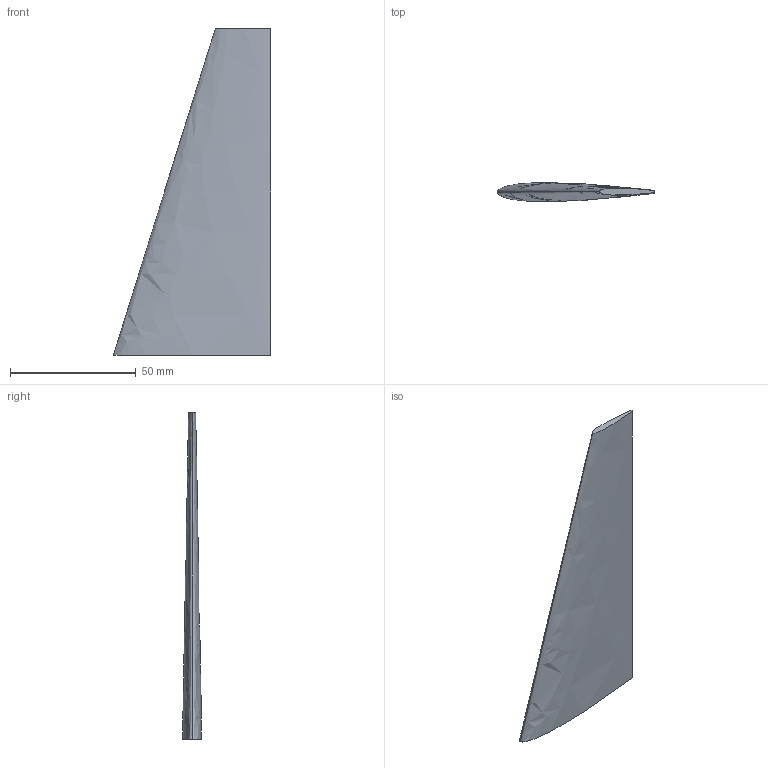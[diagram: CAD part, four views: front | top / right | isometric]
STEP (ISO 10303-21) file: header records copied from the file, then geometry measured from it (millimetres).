
FILE_DESCRIPTION(('Open CASCADE Model'),'2;1');
FILE_NAME('Open CASCADE Shape Model','2026-10-04T08:08:22',('Author'),( 'Open CASCADE'),'Open CASCADE STEP processor 7.9','Open CASCADE 7.9' ,'Unknown');
FILE_SCHEMA(('AUTOMOTIVE_DESIGN { 1 0 10303 214 1 1 1 1 }'));
Length unit declared in the file: millimetre
Products named in the file (1): Open CASCADE STEP translator 7.9 20
Bounding box: 62.6 x 7.52 x 129.9 mm (x, y, z)
Volume: 22459.3 mm3; surface area: 12199.5 mm2
Topology: 1 solids, 2 shells, 8 faces, 14 edges, 10 vertices
Faces by surface type: plane 5, bspline 2, cylinder 1
Entity records: 843 total; most frequent: CARTESIAN_POINT 555, DIRECTION 43, ORIENTED_EDGE 28, PCURVE 28, DEFINITIONAL_REPRESENTATION 28, LINE 21, VECTOR 21, B_SPLINE_CURVE_WITH_KNOTS 16
